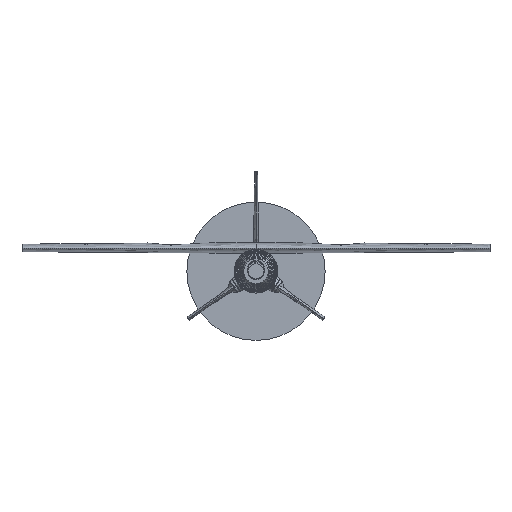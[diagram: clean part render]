
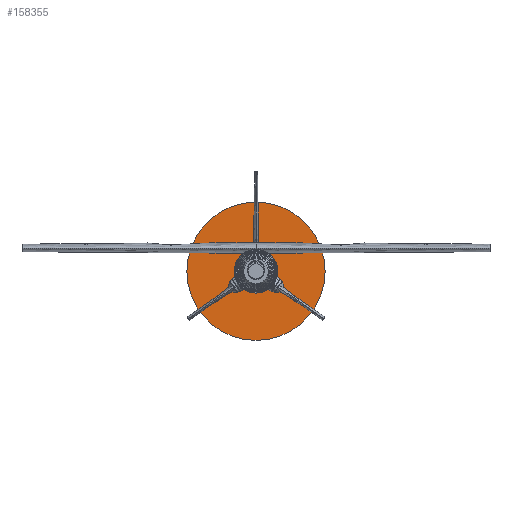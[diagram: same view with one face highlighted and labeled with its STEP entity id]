
A CAD part, left-side view. The second image highlights one B-rep face of the part: STEP entity #158355.
In plain terms, the highlighted planar face has unit normal (-1, 0, 0).
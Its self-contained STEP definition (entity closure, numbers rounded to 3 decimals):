
#158277 = CYLINDRICAL_SURFACE('',#158278,63.5);
#158278 = AXIS2_PLACEMENT_3D('',#158279,#158280,#158281);
#158279 = CARTESIAN_POINT('',(450.85,0.,0.));
#158280 = DIRECTION('',(1.,0.,0.));
#158281 = DIRECTION('',(-0.,0.,1.));
#158302 = VERTEX_POINT('',#158303);
#158303 = CARTESIAN_POINT('',(450.85,0.,63.5));
#158324 = EDGE_CURVE('',#158302,#158302,#158325,.T.);
#158325 = SURFACE_CURVE('',#158326,(#158331,#158338),.PCURVE_S1.);
#158326 = CIRCLE('',#158327,63.5);
#158327 = AXIS2_PLACEMENT_3D('',#158328,#158329,#158330);
#158328 = CARTESIAN_POINT('',(450.85,0.,0.));
#158329 = DIRECTION('',(1.,0.,0.));
#158330 = DIRECTION('',(-0.,0.,1.));
#158331 = PCURVE('',#158277,#158332);
#158332 = DEFINITIONAL_REPRESENTATION('',(#158333),#158337);
#158333 = LINE('',#158334,#158335);
#158334 = CARTESIAN_POINT('',(0.,0.));
#158335 = VECTOR('',#158336,1.);
#158336 = DIRECTION('',(1.,0.));
#158337 = ( GEOMETRIC_REPRESENTATION_CONTEXT(2) 
PARAMETRIC_REPRESENTATION_CONTEXT() REPRESENTATION_CONTEXT('2D SPACE',''
  ) );
#158338 = PCURVE('',#158339,#158344);
#158339 = PLANE('',#158340);
#158340 = AXIS2_PLACEMENT_3D('',#158341,#158342,#158343);
#158341 = CARTESIAN_POINT('',(450.85,0.,0.));
#158342 = DIRECTION('',(1.,0.,0.));
#158343 = DIRECTION('',(-0.,0.,1.));
#158344 = DEFINITIONAL_REPRESENTATION('',(#158345),#158349);
#158345 = CIRCLE('',#158346,63.5);
#158346 = AXIS2_PLACEMENT_2D('',#158347,#158348);
#158347 = CARTESIAN_POINT('',(0.,0.));
#158348 = DIRECTION('',(1.,0.));
#158349 = ( GEOMETRIC_REPRESENTATION_CONTEXT(2) 
PARAMETRIC_REPRESENTATION_CONTEXT() REPRESENTATION_CONTEXT('2D SPACE',''
  ) );
#158355 = ADVANCED_FACE('',(#158356),#158339,.F.);
#158356 = FACE_BOUND('',#158357,.T.);
#158357 = EDGE_LOOP('',(#158358));
#158358 = ORIENTED_EDGE('',*,*,#158324,.F.);
